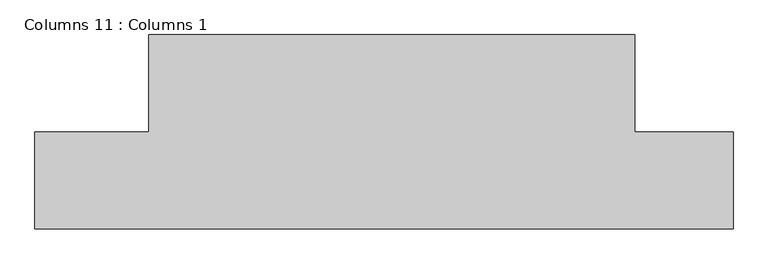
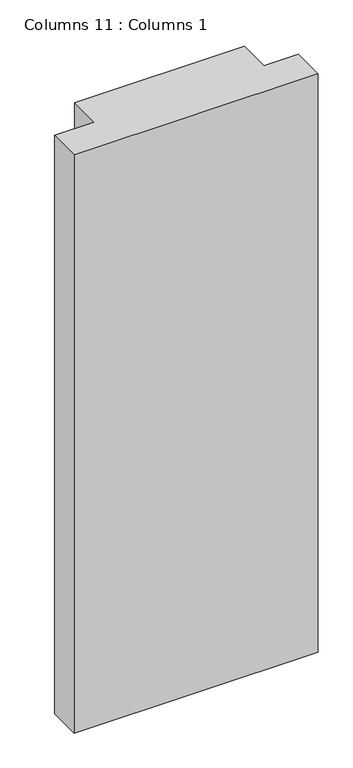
"""IFC4 building model written with IfcOpenShell, lengths in millimetres: column geometry, Columns 11 : Columns 1."""

import ifcopenshell
import ifcopenshell.guid

model = None  # the IFC model being written
_history = None  # IfcOwnerHistory: only IFC2X3 demands one
_inside = {}  # id of a spatial element -> (the spatial element, [elements in it])
_under = {}  # id of a project, library or spatial element -> (it, [spatial elements below it])
_declared = {}  # id of a project -> (the project, [libraries it declares])
_typed = {}  # id of a type object -> (the type object, [elements of that type])
_made_of = {}  # id of a material, layer set ... -> (it, [elements and type objects made of it])


def new_model(schema):
    """Start an empty IFC model of exactly this schema.

    Asked for "IFC4X3", IfcOpenShell would pick the latest addendum, in which some entities
    have other attributes; the version numbers below select the first issue.
    IFC2X3 requires an IfcOwnerHistory on every rooted entity: one is made here for all.
    """
    global model, _history
    if schema == "IFC4X3":
        model = ifcopenshell.file(schema_version=(4, 3, 0, 0))
    else:
        model = ifcopenshell.file(schema=schema)
    _inside.clear()
    _under.clear()
    _declared.clear()
    _typed.clear()
    _made_of.clear()
    _history = None
    if model.schema == "IFC2X3":
        org = make("IfcOrganization", Name="unknown")
        user = make(
            "IfcPersonAndOrganization",
            ThePerson=make("IfcPerson", FamilyName="unknown"),
            TheOrganization=org,
        )
        app = make(
            "IfcApplication",
            ApplicationDeveloper=org,
            Version="unknown",
            ApplicationFullName="unknown",
            ApplicationIdentifier="unknown",
        )
        _history = make(
            "IfcOwnerHistory",
            OwningUser=user,
            OwningApplication=app,
            ChangeAction="ADDED",
            CreationDate=0,
        )
    return model


def make(cls, **values):
    """One entity of the class cls with the attributes given. An attribute that is None is left unset."""
    return model.create_entity(
        cls, **{name: value for name, value in values.items() if value is not None}
    )


def rooted(cls, **values):
    """An entity with a GlobalId (a new one), such as an element, a storey or a relation."""
    return make(cls, GlobalId=ifcopenshell.guid.new(), OwnerHistory=_history, **values)


def si_unit(unit_type, name, prefix=None):
    """IfcSIUnit, for example si_unit("LENGTHUNIT", "METRE", prefix="MILLI")."""
    return make("IfcSIUnit", UnitType=unit_type, Prefix=prefix, Name=name)


def assignment(units):
    """IfcUnitAssignment: the units of a project."""
    return None if units is None else make("IfcUnitAssignment", Units=units)


def point(xyz):
    """IfcCartesianPoint."""
    return None if xyz is None else make("IfcCartesianPoint", Coordinates=xyz)


def direction(xyz):
    """IfcDirection."""
    return None if xyz is None else make("IfcDirection", DirectionRatios=xyz)


def frame(location, z_axis=None, x_axis=None):
    """IfcAxis2Placement3D, a coordinate frame: its origin and axes. An axis left out is left unset."""
    return make(
        "IfcAxis2Placement3D",
        Location=point(location),
        Axis=direction(z_axis),
        RefDirection=direction(x_axis),
    )


def origin():
    """The frame at (0, 0, 0) with its axes left unset."""
    return frame((0.0, 0.0, 0.0))


def origin_with_axes():
    """The frame at (0, 0, 0) with the z axis (0, 0, 1) and the x axis (1, 0, 0) written out."""
    return frame((0.0, 0.0, 0.0), z_axis=(0.0, 0.0, 1.0), x_axis=(1.0, 0.0, 0.0))


def place(relative_to, where):
    """IfcLocalPlacement: puts the frame where relative to a parent placement (None: the world)."""
    return make(
        "IfcLocalPlacement", PlacementRelTo=relative_to, RelativePlacement=where
    )


def context(
    kind, dimensions, precision=None, world=None, true_north=None, identifier=None
):
    """IfcGeometricRepresentationContext, for example the 3D "Model" context."""
    return make(
        "IfcGeometricRepresentationContext",
        ContextIdentifier=identifier,
        ContextType=kind,
        CoordinateSpaceDimension=dimensions,
        Precision=precision,
        WorldCoordinateSystem=world,
        TrueNorth=true_north,
    )


def project(units=None, contexts=None):
    """IfcProject with its units and contexts."""
    return rooted(
        "IfcProject",
        Name="project",
        RepresentationContexts=contexts,
        UnitsInContext=assignment(units),
    )


def spatial(cls, under=None, at=None, **own):
    """A site, building, storey or space (cls), placed at a placement, below another one or the project."""
    s = rooted(cls, ObjectPlacement=at, **own)
    if under is not None:
        _under.setdefault(under.id(), (under, []))[1].append(s)
    return s


def polyline(points):
    """IfcPolyline through the points."""
    return make("IfcPolyline", Points=[point(p) for p in points])


def outline(outer, holes=None, kind="AREA"):
    """IfcArbitraryClosedProfileDef: a profile drawn as a closed curve; with holes, ...WithVoids."""
    if holes is None:
        return make("IfcArbitraryClosedProfileDef", ProfileType=kind, OuterCurve=outer)
    return make(
        "IfcArbitraryProfileDefWithVoids",
        ProfileType=kind,
        OuterCurve=outer,
        InnerCurves=holes,
    )


def extrude(swept, where, along, depth):
    """IfcExtrudedAreaSolid: the profile swept, set in the frame where, extruded along a direction by depth."""
    return make(
        "IfcExtrudedAreaSolid",
        SweptArea=swept,
        Position=where,
        ExtrudedDirection=direction(along),
        Depth=depth,
    )


def shape(context_of_items, identifier, shape_type, items):
    """IfcShapeRepresentation: the items that make up one representation, for example the "Body"."""
    return make(
        "IfcShapeRepresentation",
        ContextOfItems=context_of_items,
        RepresentationIdentifier=identifier,
        RepresentationType=shape_type,
        Items=items,
    )


def source(mapping_origin, context_of_items, identifier, shape_type, items):
    """IfcRepresentationMap: a shape defined once, which mapped items show again and again."""
    return make(
        "IfcRepresentationMap",
        MappingOrigin=mapping_origin,
        MappedRepresentation=shape(context_of_items, identifier, shape_type, items),
    )


def transform(
    local_origin,
    x_axis=None,
    y_axis=None,
    z_axis=None,
    scale=None,
    scale2=None,
    scale3=None,
    uniform=True,
):
    """IfcCartesianTransformationOperator3D, or its non-uniform kind. x_axis, y_axis, z_axis: its Axis1, 2, 3."""
    if uniform:
        return make(
            "IfcCartesianTransformationOperator3D",
            Axis1=direction(x_axis),
            Axis2=direction(y_axis),
            LocalOrigin=point(local_origin),
            Scale=scale,
            Axis3=direction(z_axis),
        )
    return make(
        "IfcCartesianTransformationOperator3DnonUniform",
        Axis1=direction(x_axis),
        Axis2=direction(y_axis),
        LocalOrigin=point(local_origin),
        Scale=scale,
        Axis3=direction(z_axis),
        Scale2=scale2,
        Scale3=scale3,
    )


def mapped(mapping_source, mapping_target):
    """IfcMappedItem: shows the shape of a source again, moved by a transform."""
    return make(
        "IfcMappedItem", MappingSource=mapping_source, MappingTarget=mapping_target
    )


def made_of(thing, what):
    """Note that an element or type object is made of a material, layer set ...; save() writes the relation."""
    if what is not None:
        _made_of.setdefault(what.id(), (what, []))[1].append(thing)
    return thing


def element(
    cls,
    number,
    at=None,
    inside=None,
    cuts=None,
    type_object=None,
    material=None,
    context=None,
    identifier="Body",
    shape_type=None,
    held_by="IfcProductDefinitionShape",
    body=None,
    shapes=None,
    **own,
):
    """One element of the class cls, such as IfcWall. Its Tag is "e" and its number.

    at: its placement. inside: the storey or other place that contains it. cuts: it is an
    opening in that element (IfcRelVoidsElement). A single representation is given by context,
    identifier, shape_type and body (its items); several are given by shapes. held_by: the class
    of the entity that holds the representations. save() writes the other relations.
    """
    e = rooted(cls, Tag="e%d" % number, ObjectPlacement=at, **own)
    if body is not None:
        shapes = [shape(context, identifier, shape_type, body)]
    if shapes is not None:
        e.Representation = make(held_by, Representations=shapes)
    if inside is not None:
        _inside.setdefault(inside.id(), (inside, []))[1].append(e)
    if cuts is not None:
        rooted(
            "IfcRelVoidsElement", RelatingBuildingElement=cuts, RelatedOpeningElement=e
        )
    if type_object is not None:
        _typed.setdefault(type_object.id(), (type_object, []))[1].append(e)
    return made_of(e, material)


def aggregate(whole, parts):
    """IfcRelAggregates: a whole, such as a stair, and the parts it consists of."""
    return rooted("IfcRelAggregates", RelatingObject=whole, RelatedObjects=parts)


def save(model, path):
    """Write the relations noted so far, then the file.

    IfcRelAggregates (storeys below a building ...), IfcRelContainedInSpatialStructure (elements
    in a storey), IfcRelDefinesByType, IfcRelAssociatesMaterial and IfcRelDeclares: one each for
    every whole, place, type object, material and project.
    """
    for whole, parts in _under.values():
        aggregate(whole, parts)
    for where, things in _inside.values():
        rooted(
            "IfcRelContainedInSpatialStructure",
            RelatedElements=things,
            RelatingStructure=where,
        )
    for kind, things in _typed.values():
        rooted("IfcRelDefinesByType", RelatedObjects=things, RelatingType=kind)
    for what, things in _made_of.values():
        rooted("IfcRelAssociatesMaterial", RelatedObjects=things, RelatingMaterial=what)
    for by, libraries in _declared.values():
        rooted("IfcRelDeclares", RelatingContext=by, RelatedDefinitions=libraries)
    model.write(path)


def columns_11_columns_1_38dbda88(model_context):
    return source(origin(), model_context, "Body", "SweptSolid", [
        extrude(outline(polyline([(-26671.6085473, 117135.7591334), (-26671.6085473, 117338.9591334), (-26433.3428355, 117338.9591334), (-26433.3428355, 117542.1591334), (-25417.3428355, 117542.1591334), (-25417.3428355, 117338.9591334), (-25211.1085473, 117338.9591334), (-25211.1085473, 117135.7591334), (-26671.6085473, 117135.7591334)])), origin_with_axes(), (0.0, 0.0, 1.0), 3657.6),
    ])


if __name__ == "__main__":
    model = new_model("IFC4")
    model_context = context("Model", 3, world=origin())
    ifc_project = project(units=[si_unit("LENGTHUNIT", "METRE", prefix="MILLI")], contexts=[model_context])
    site = spatial("IfcSite", under=ifc_project)
    building = spatial("IfcBuilding", under=site)
    placement = place(None, origin())
    columns_11_columns_1_shape = columns_11_columns_1_38dbda88(model_context)
    element("IfcColumn", 1, ObjectType="Columns 11 : Columns 1", at=placement, inside=building, context=model_context, shape_type="MappedRepresentation", body=[
        mapped(columns_11_columns_1_shape, transform((0.0, 0.0, 0.0), x_axis=(1.0, 0.0, 0.0), y_axis=(0.0, 1.0, 0.0), z_axis=(0.0, 0.0, 1.0))),
    ])
    save(model, "model.ifc")
